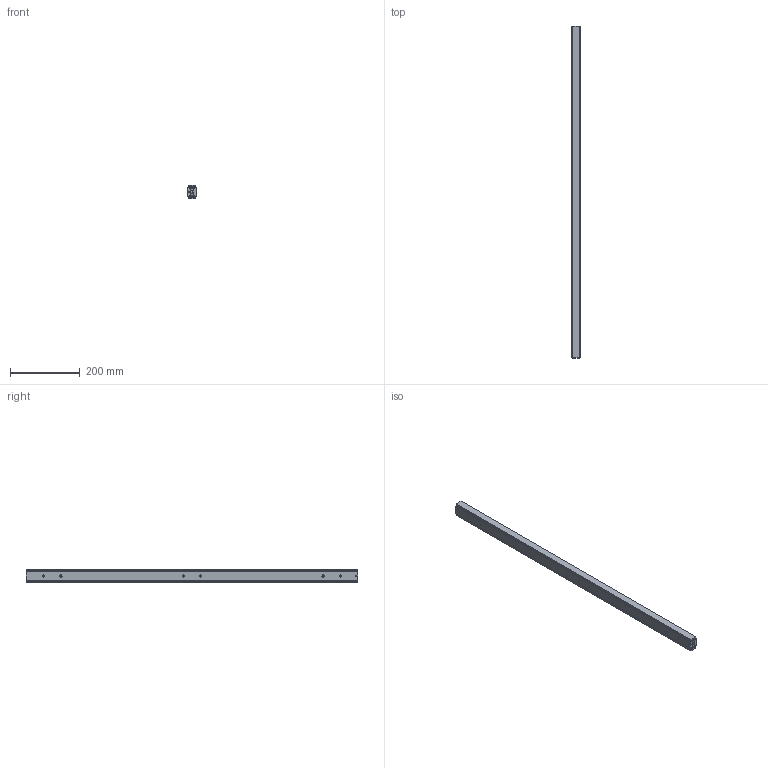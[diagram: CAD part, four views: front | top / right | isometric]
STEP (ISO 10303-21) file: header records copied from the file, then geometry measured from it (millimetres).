
FILE_DESCRIPTION(/* description */ (''),/* implementation_level */ '2;1');
FILE_NAME(/* name */ 'F:\MX-DTP40.095_eingefahren.stp',/* time_stamp */ '2020-11-06T14:23:33+01:00',/* author */ ('Miluxor'),/* organization */ (''),/* preprocessor_version */ 'ST-DEVELOPER v16.13',/* originating_system */ 'AutoCAD Mechanical',/* authorisation */ '');
FILE_SCHEMA (('AUTOMOTIVE_DESIGN { 1 0 10303 214 3 1 1 }'));
Length unit declared in the file: millimetre
Products named in the file (1): Product
Bounding box: 24 x 950 x 40 mm (x, y, z)
Volume: 712410.4 mm3; surface area: 344053.9 mm2
Topology: 89 solids, 89 shells, 496 faces, 1266 edges, 840 vertices
Faces by surface type: plane 344, cylinder 82, sphere 56, bspline 8, torus 6
Full cylindrical faces by diameter (mm): 6 x68, 10 x2
Entity records: 19785 total; most frequent: CARTESIAN_POINT 8099, DIRECTION 2272, ORIENTED_EDGE 2152, EDGE_CURVE 1076, VERTEX_POINT 838, LINE 834, VECTOR 834, AXIS2_PLACEMENT_3D 719
